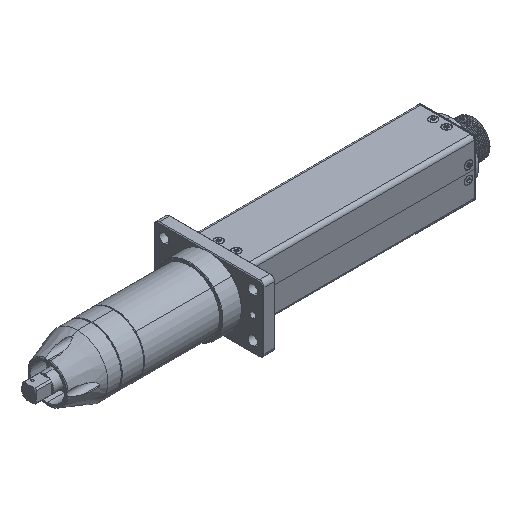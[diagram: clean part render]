
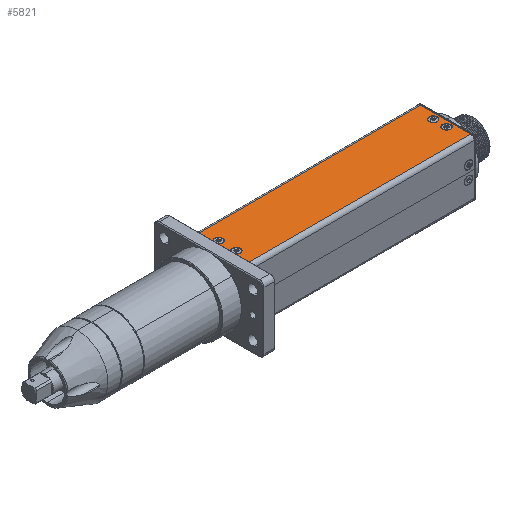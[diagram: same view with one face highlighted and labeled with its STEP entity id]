
A CAD part, isometric view. The second image highlights one B-rep face of the part: STEP entity #5821.
In plain terms, the highlighted planar face has unit normal (0, 0, 1).
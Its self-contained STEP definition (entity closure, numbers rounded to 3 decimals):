
#21 = DIRECTION ( 'NONE',  ( 0., 0., 1. ) ) ;
#119 = CARTESIAN_POINT ( 'NONE',  ( 91.9, 6., 19.4 ) ) ;
#258 = DIRECTION ( 'NONE',  ( 1., 0., 0. ) ) ;
#433 = VERTEX_POINT ( 'NONE', #27095 ) ;
#642 = DIRECTION ( 'NONE',  ( 0., 0., 1. ) ) ;
#833 = EDGE_CURVE ( 'NONE', #14529, #23077, #1180, .T. ) ;
#914 = CARTESIAN_POINT ( 'NONE',  ( 239.6, -17., 19.4 ) ) ;
#1045 = DIRECTION ( 'NONE',  ( 1., 0., 0. ) ) ;
#1180 = CIRCLE ( 'NONE', #1674, 2.75 ) ;
#1199 = AXIS2_PLACEMENT_3D ( 'NONE', #11383, #21, #4802 ) ;
#1279 = EDGE_CURVE ( 'NONE', #21521, #5474, #1699, .T. ) ;
#1457 = CARTESIAN_POINT ( 'NONE',  ( 89.15, -6., 19.4 ) ) ;
#1640 = EDGE_CURVE ( 'NONE', #17871, #12310, #4043, .T. ) ;
#1674 = AXIS2_PLACEMENT_3D ( 'NONE', #4759, #7087, #13666 ) ;
#1699 = CIRCLE ( 'NONE', #1199, 2.75 ) ;
#1815 = VERTEX_POINT ( 'NONE', #5976 ) ;
#1920 = EDGE_CURVE ( 'NONE', #1815, #433, #3085, .T. ) ;
#2032 = EDGE_CURVE ( 'NONE', #23077, #14529, #7280, .T. ) ;
#2172 = DIRECTION ( 'NONE',  ( 0., 0., 1. ) ) ;
#2415 = LINE ( 'NONE', #11848, #9565 ) ;
#2844 = ORIENTED_EDGE ( 'NONE', *, *, #833, .F. ) ;
#3085 = CIRCLE ( 'NONE', #11478, 2.75 ) ;
#3298 = DIRECTION ( 'NONE',  ( 0., 1., 0. ) ) ;
#3511 = ORIENTED_EDGE ( 'NONE', *, *, #1279, .F. ) ;
#3730 = FACE_BOUND ( 'NONE', #24274, .T. ) ;
#3744 = AXIS2_PLACEMENT_3D ( 'NONE', #19499, #21833, #28234 ) ;
#3822 = DIRECTION ( 'NONE',  ( -1., 0., 0. ) ) ;
#4043 = CIRCLE ( 'NONE', #10066, 2.75 ) ;
#4210 = CARTESIAN_POINT ( 'NONE',  ( 91.9, -6., 19.4 ) ) ;
#4415 = VERTEX_POINT ( 'NONE', #20839 ) ;
#4759 = CARTESIAN_POINT ( 'NONE',  ( 91.9, 6., 19.4 ) ) ;
#4802 = DIRECTION ( 'NONE',  ( 1., 0., 0. ) ) ;
#5251 = ORIENTED_EDGE ( 'NONE', *, *, #16619, .F. ) ;
#5313 = DIRECTION ( 'NONE',  ( 1., 0., 0. ) ) ;
#5474 = VERTEX_POINT ( 'NONE', #13572 ) ;
#5821 = ADVANCED_FACE ( 'NONE', ( #6364, #3730, #26489, #17018, #8255 ), #6508, .F. ) ;
#5976 = CARTESIAN_POINT ( 'NONE',  ( 232.95, 4.5, 19.4 ) ) ;
#5984 = CIRCLE ( 'NONE', #12964, 2.75 ) ;
#6186 = AXIS2_PLACEMENT_3D ( 'NONE', #6965, #22299, #258 ) ;
#6189 = VECTOR ( 'NONE', #8394, 1000. ) ;
#6190 = DIRECTION ( 'NONE',  ( 0., 0., 1. ) ) ;
#6310 = LINE ( 'NONE', #15208, #8864 ) ;
#6364 = FACE_BOUND ( 'NONE', #17133, .T. ) ;
#6508 = PLANE ( 'NONE',  #3744 ) ;
#6509 = CARTESIAN_POINT ( 'NONE',  ( 87.1, 17., 19.4 ) ) ;
#6965 = CARTESIAN_POINT ( 'NONE',  ( 235.7, -4.5, 19.4 ) ) ;
#7087 = DIRECTION ( 'NONE',  ( 0., 0., 1. ) ) ;
#7280 = CIRCLE ( 'NONE', #23151, 2.75 ) ;
#7886 = EDGE_CURVE ( 'NONE', #4415, #16087, #6310, .T. ) ;
#8255 = FACE_OUTER_BOUND ( 'NONE', #20370, .T. ) ;
#8394 = DIRECTION ( 'NONE',  ( 0., -1., 0. ) ) ;
#8864 = VECTOR ( 'NONE', #3822, 1000. ) ;
#8915 = EDGE_CURVE ( 'NONE', #12310, #17871, #12222, .T. ) ;
#9565 = VECTOR ( 'NONE', #1045, 1000. ) ;
#9980 = CARTESIAN_POINT ( 'NONE',  ( 232.95, -4.5, 19.4 ) ) ;
#10005 = CARTESIAN_POINT ( 'NONE',  ( 87.1, 19.4, 19.4 ) ) ;
#10066 = AXIS2_PLACEMENT_3D ( 'NONE', #16701, #642, #5313 ) ;
#10440 = CARTESIAN_POINT ( 'NONE',  ( 239.6, 19.4, 19.4 ) ) ;
#10455 = ORIENTED_EDGE ( 'NONE', *, *, #7886, .T. ) ;
#10794 = EDGE_LOOP ( 'NONE', ( #14235, #13459 ) ) ;
#11063 = DIRECTION ( 'NONE',  ( 1., 0., 0. ) ) ;
#11383 = CARTESIAN_POINT ( 'NONE',  ( 91.9, -6., 19.4 ) ) ;
#11478 = AXIS2_PLACEMENT_3D ( 'NONE', #19243, #17066, #24621 ) ;
#11848 = CARTESIAN_POINT ( 'NONE',  ( 163.35, -17., 19.4 ) ) ;
#12222 = CIRCLE ( 'NONE', #6186, 2.75 ) ;
#12310 = VERTEX_POINT ( 'NONE', #22588 ) ;
#12524 = VECTOR ( 'NONE', #3298, 1000. ) ;
#12613 = ORIENTED_EDGE ( 'NONE', *, *, #1640, .F. ) ;
#12839 = EDGE_CURVE ( 'NONE', #5474, #21521, #5984, .T. ) ;
#12964 = AXIS2_PLACEMENT_3D ( 'NONE', #4210, #13108, #22008 ) ;
#13055 = CARTESIAN_POINT ( 'NONE',  ( 235.7, 4.5, 19.4 ) ) ;
#13108 = DIRECTION ( 'NONE',  ( 0., 0., 1. ) ) ;
#13109 = EDGE_CURVE ( 'NONE', #22831, #16087, #26202, .T. ) ;
#13459 = ORIENTED_EDGE ( 'NONE', *, *, #1920, .F. ) ;
#13572 = CARTESIAN_POINT ( 'NONE',  ( 94.65, -6., 19.4 ) ) ;
#13658 = ORIENTED_EDGE ( 'NONE', *, *, #21076, .T. ) ;
#13666 = DIRECTION ( 'NONE',  ( 1., 0., 0. ) ) ;
#14132 = AXIS2_PLACEMENT_3D ( 'NONE', #13055, #6190, #16850 ) ;
#14235 = ORIENTED_EDGE ( 'NONE', *, *, #19247, .F. ) ;
#14529 = VERTEX_POINT ( 'NONE', #27887 ) ;
#15208 = CARTESIAN_POINT ( 'NONE',  ( 163.35, 17., 19.4 ) ) ;
#16087 = VERTEX_POINT ( 'NONE', #6509 ) ;
#16619 = EDGE_CURVE ( 'NONE', #4415, #22596, #28077, .T. ) ;
#16701 = CARTESIAN_POINT ( 'NONE',  ( 235.7, -4.5, 19.4 ) ) ;
#16850 = DIRECTION ( 'NONE',  ( 1., 0., 0. ) ) ;
#17018 = FACE_BOUND ( 'NONE', #10794, .T. ) ;
#17066 = DIRECTION ( 'NONE',  ( 0., 0., 1. ) ) ;
#17133 = EDGE_LOOP ( 'NONE', ( #2844, #20187 ) ) ;
#17871 = VERTEX_POINT ( 'NONE', #9980 ) ;
#18451 = ORIENTED_EDGE ( 'NONE', *, *, #13109, .F. ) ;
#19083 = EDGE_LOOP ( 'NONE', ( #22260, #12613 ) ) ;
#19243 = CARTESIAN_POINT ( 'NONE',  ( 235.7, 4.5, 19.4 ) ) ;
#19247 = EDGE_CURVE ( 'NONE', #433, #1815, #19290, .T. ) ;
#19290 = CIRCLE ( 'NONE', #14132, 2.75 ) ;
#19499 = CARTESIAN_POINT ( 'NONE',  ( 163.35, 0., 19.4 ) ) ;
#19531 = CARTESIAN_POINT ( 'NONE',  ( 89.15, 6., 19.4 ) ) ;
#20187 = ORIENTED_EDGE ( 'NONE', *, *, #2032, .F. ) ;
#20370 = EDGE_LOOP ( 'NONE', ( #18451, #13658, #5251, #10455 ) ) ;
#20839 = CARTESIAN_POINT ( 'NONE',  ( 239.6, 17., 19.4 ) ) ;
#21076 = EDGE_CURVE ( 'NONE', #22831, #22596, #2415, .T. ) ;
#21271 = CARTESIAN_POINT ( 'NONE',  ( 87.1, -17., 19.4 ) ) ;
#21521 = VERTEX_POINT ( 'NONE', #1457 ) ;
#21833 = DIRECTION ( 'NONE',  ( 0., 0., -1. ) ) ;
#22008 = DIRECTION ( 'NONE',  ( 1., 0., 0. ) ) ;
#22260 = ORIENTED_EDGE ( 'NONE', *, *, #8915, .F. ) ;
#22299 = DIRECTION ( 'NONE',  ( 0., 0., 1. ) ) ;
#22588 = CARTESIAN_POINT ( 'NONE',  ( 238.45, -4.5, 19.4 ) ) ;
#22596 = VERTEX_POINT ( 'NONE', #914 ) ;
#22831 = VERTEX_POINT ( 'NONE', #21271 ) ;
#23077 = VERTEX_POINT ( 'NONE', #19531 ) ;
#23151 = AXIS2_PLACEMENT_3D ( 'NONE', #119, #2172, #11063 ) ;
#23653 = ORIENTED_EDGE ( 'NONE', *, *, #12839, .F. ) ;
#24274 = EDGE_LOOP ( 'NONE', ( #23653, #3511 ) ) ;
#24621 = DIRECTION ( 'NONE',  ( 1., 0., 0. ) ) ;
#26202 = LINE ( 'NONE', #10005, #12524 ) ;
#26489 = FACE_BOUND ( 'NONE', #19083, .T. ) ;
#27095 = CARTESIAN_POINT ( 'NONE',  ( 238.45, 4.5, 19.4 ) ) ;
#27887 = CARTESIAN_POINT ( 'NONE',  ( 94.65, 6., 19.4 ) ) ;
#28077 = LINE ( 'NONE', #10440, #6189 ) ;
#28234 = DIRECTION ( 'NONE',  ( -1., 0., 0. ) ) ;
